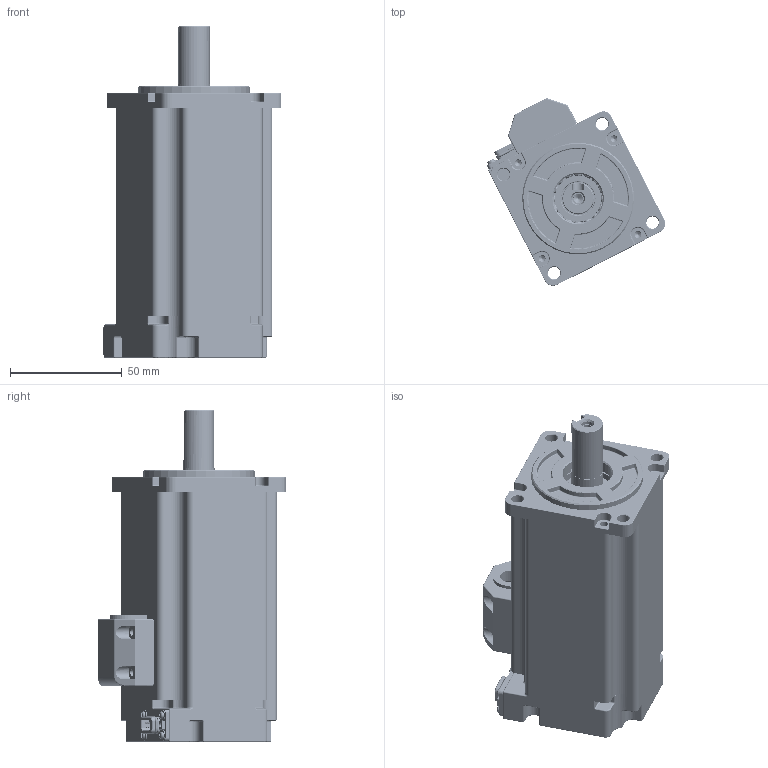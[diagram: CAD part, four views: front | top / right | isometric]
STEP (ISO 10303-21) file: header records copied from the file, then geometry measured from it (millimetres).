
FILE_DESCRIPTION (( 'STEP AP214' ), '1' );
FILE_NAME ('600W低压整机-无刹车（插座式）.STEP', '2023-07-03T02:13:55', ( '' ), ( '' ), 'SwSTEP 2.0', 'SolidWorks 2014', '' );
FILE_SCHEMA (( 'AUTOMOTIVE_DESIGN' ));
Length unit declared in the file: millimetre
Products named in the file (17): 60棠詩57-600W; 60晤鎢ん綴欶; 綴傷裔_60價釱-201126; 600W低压整机-无刹车（插座式）; 600W沺郋; 57蛌赽沺郋; 600W儂褲-腴揤_1; 60#粣 棠晤-饜57-腴揤_23弇; SC40陔晤鎢ん瑤脣釱sc-mc7p-a6-zhichuxianchazuo; 揤盄裔躇猾菜 - 9.2; 60-10-26-8粣創; 57 600W沺郋; 60陔晤鎢ん綴欶-201126; 60- 15-32-9粣創; 低压电机动力压线盖; 57-600W嘎殤; ヶ傷裔_60價釱-201126
Assembly tree (59 placements, depth 3):
  600W低压整机-无刹车（插座式）
    60#粣 棠晤-饜57-腴揤_23弇
    600W沺郋
      57 600W沺郋  x12
      57-600W嘎殤  x24
      57蛌赽沺郋
      60棠詩57-600W  x10
    60- 15-32-9粣創
    60-10-26-8粣創
    綴傷裔_60價釱-201126
    600W儂褲-腴揤_1
    ヶ傷裔_60價釱-201126
    揤盄裔躇猾菜 - 9.2
    低压电机动力压线盖
    60晤鎢ん綴欶
      60陔晤鎢ん綴欶-201126
      SC40陔晤鎢ん瑤脣釱sc-mc7p-a6-zhichuxianchazuo
Bounding box: 79.85 x 83.98 x 148.5 mm (x, y, z)
Volume: 261928.2 mm3; surface area: 209862.4 mm2
Topology: 66 solids, 66 shells, 6209 faces, 16691 edges, 10369 vertices
Faces by surface type: cylinder 2621, plane 2321, bspline 831, cone 217, torus 171, sphere 48
Entity records: 145203 total; most frequent: CARTESIAN_POINT 40064, ORIENTED_EDGE 15550, DIRECTION 14429, EDGE_CURVE 7775, AXIS2_PLACEMENT_3D 5185, VERTEX_POINT 4868, VECTOR 4059, LINE 4059
